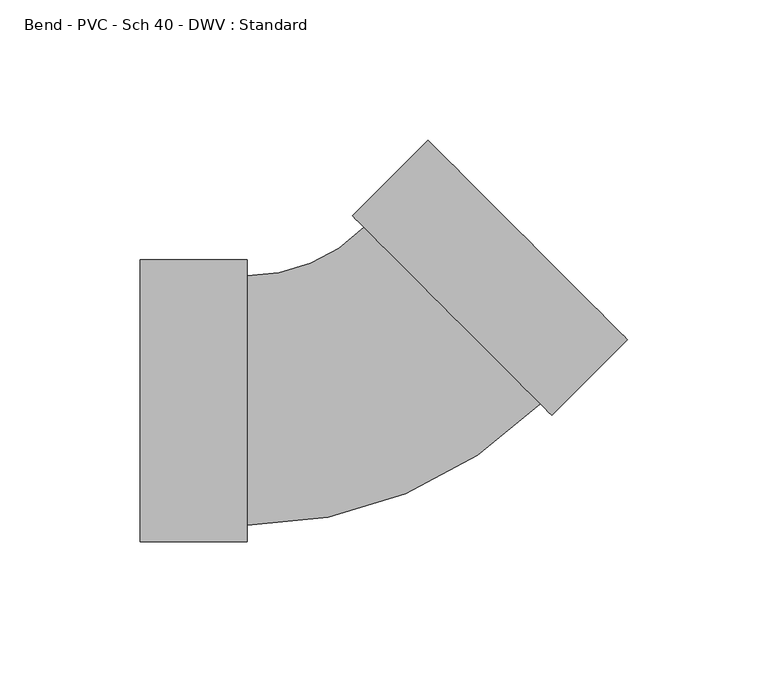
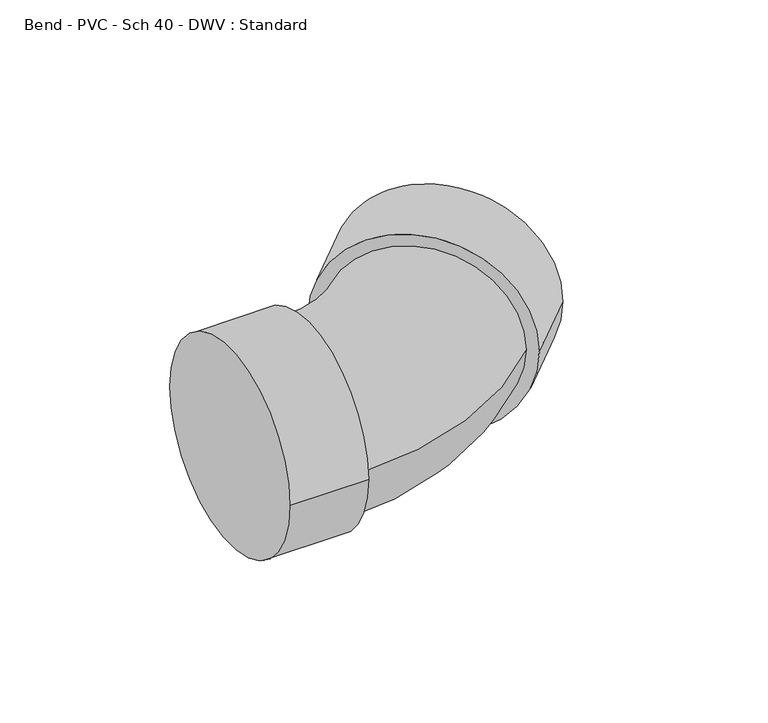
"""IFC4 building model written with IfcOpenShell, lengths in millimetres: pipe fitting geometry, Bend - PVC - Sch 40 - DWV : Standard."""

from ifc_helpers import new_model, si_unit, point, frame, origin, place, context, project, spatial, circle_curve, ellipse_curve, trimmed, source, transform, mapped, element, save
from ifc_brep_helpers import plane_surface, cylinder_surface, revolved_surface, advanced_brep


def bend_pvc_sch_40_dwv_standard_9832a8ad(model_context):
    return source(origin(), model_context, "Body", "AdvancedBrep", [
        advanced_brep(
        [(-80.9752, -50.2666, 0.0), (-80.9752, 50.2666, 0.0), (-42.8752, -50.2666, 0.0), (-42.8752, 50.2666, 0.0), (-42.8752, -44.45, 0.0), (-42.8752, 44.45, 0.0), (-1.1194069, 61.7481352, 0.0), (61.7483464, -1.1076966, 0.0), (65.8616937, -5.2202639, 0.0), (-5.2327542, 65.8607025, 0.0), (92.7999073, 21.7230589, 0.0), (21.7054595, 92.8040253, 0.0)],
        [
            (0, 1, circle_curve(frame((-80.9752, 0.0, 0.0), z_axis=(-1.0, 0.0, 0.0), x_axis=(0.0, 1.0, 0.0)), 50.2666)),
            (1, 0, circle_curve(frame((-80.9752, 0.0, 0.0), z_axis=(-1.0, 0.0, 0.0), x_axis=(0.0, 1.0, 0.0)), 50.2666)),
            (2, 3, circle_curve(frame((-42.8752, 0.0, 0.0), z_axis=(1.0, 0.0, 0.0), x_axis=(0.0, 1.0, 0.0)), 50.2666)),
            (3, 2, circle_curve(frame((-42.8752, 0.0, 0.0), z_axis=(1.0, 0.0, 0.0), x_axis=(0.0, 1.0, 0.0)), 50.2666)),
            (4, 5, circle_curve(frame((-42.8752, 0.0, 0.0), z_axis=(-1.0, 0.0, 0.0), x_axis=(0.0, 1.0, 0.0)), 44.45)),
            (5, 4, circle_curve(frame((-42.8752, 0.0, 0.0), z_axis=(-1.0, 0.0, 0.0), x_axis=(0.0, 1.0, 0.0)), 44.45)),
            (0, 2),
            (3, 1),
            (6, 5, circle_curve(frame((-42.8752, 103.4960103, 0.0), z_axis=(0.0, 0.0, -1.0), x_axis=(0.0, -1.0, 0.0)), 59.0460103)),
            (4, 7, circle_curve(frame((-42.8752, 103.4960103, 0.0), z_axis=(0.0, 0.0, 1.0), x_axis=(0.0, -1.0, 0.0)), 147.9460103)),
            (7, 6, circle_curve(frame((30.3144698, 30.3202193, 0.0), z_axis=(-0.7070397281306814, -0.7071738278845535, 0.0), x_axis=(-0.7071738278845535, 0.7070397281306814, 0.0)), 44.45)),
            (6, 7, circle_curve(frame((30.3144698, 30.3202193, 0.0), z_axis=(-0.7070397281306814, -0.7071738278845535, 0.0), x_axis=(-0.7071738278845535, 0.7070397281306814, 0.0)), 44.45)),
            (8, 9, circle_curve(frame((30.3144698, 30.3202193, 0.0), z_axis=(-0.7070397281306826, -0.7071738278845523, 0.0), x_axis=(-0.7071738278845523, 0.7070397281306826, 0.0)), 50.2666)),
            (9, 8, circle_curve(frame((30.3144698, 30.3202193, 0.0), z_axis=(-0.7070397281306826, -0.7071738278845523, 0.0), x_axis=(-0.7071738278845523, 0.7070397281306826, 0.0)), 50.2666)),
            (10, 11, circle_curve(frame((57.2526834, 57.2635421, 0.0), z_axis=(0.7070397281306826, 0.7071738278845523, 0.0), x_axis=(-0.7071738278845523, 0.7070397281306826, 0.0)), 50.2666)),
            (11, 10, circle_curve(frame((57.2526834, 57.2635421, 0.0), z_axis=(0.7070397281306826, 0.7071738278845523, 0.0), x_axis=(-0.7071738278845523, 0.7070397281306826, 0.0)), 50.2666)),
            (8, 10),
            (11, 9),
        ],
        [
            plane_surface(frame((-80.9752, 0.0, 0.0), z_axis=(-1.0, 0.0, 0.0), x_axis=(0.0, 0.0, 1.0))),
            plane_surface(frame((-42.8752, 0.0, 0.0), z_axis=(1.0, 0.0, 0.0), x_axis=(0.0, 0.0, 1.0))),
            cylinder_surface(frame((-80.9752, 0.0, 0.0), z_axis=(-1.0, 0.0, 0.0), x_axis=(0.0, 1.0, 0.0)), 50.2666),
            revolved_surface(trimmed(ellipse_curve(frame((-42.8752, 0.0, 0.0), z_axis=(-1.0, 0.0, 0.0), x_axis=(0.0, 1.0, 0.0)), 44.45, 44.45), [point((-42.8752, -44.45, 0.0))], [point((-42.8752, 44.45, 0.0))], True, "CARTESIAN"), (-42.8752, 103.4960103, 0.0), (0.0, 0.0, 1.0)),
            revolved_surface(trimmed(ellipse_curve(frame((-42.8752, 0.0, 0.0), z_axis=(-1.0, 0.0, 0.0), x_axis=(0.0, 1.0, 0.0)), 44.45, 44.45), [point((-42.8752, 44.45, 0.0))], [point((-42.8752, -44.45, 0.0))], True, "CARTESIAN"), (-42.8752, 103.4960103, 0.0), (0.0, 0.0, 1.0)),
            plane_surface(frame((30.3144698, 30.3202193, 0.0), z_axis=(-0.7070397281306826, -0.7071738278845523, 0.0), x_axis=(0.0, 0.0, 1.0))),
            plane_surface(frame((57.2526834, 57.2635421, 0.0), z_axis=(0.7070397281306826, 0.7071738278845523, 0.0), x_axis=(0.0, 0.0, 1.0))),
            cylinder_surface(frame((30.3144698, 30.3202193, 0.0), z_axis=(-0.7070397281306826, -0.7071738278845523, 0.0), x_axis=(-0.7071738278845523, 0.7070397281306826, 0.0)), 50.2666),
        ],
        [
            (0, [[1, 2]]),
            (1, [[3, 4], [5, 6]]),
            (2, [[-1, 7, -4, 8]]),
            (2, [[-2, -8, -3, -7]]),
            (3, [[9, -5, 10, 11]]),
            (4, [[-9, 12, -10, -6]]),
            (5, [[13, 14], [-11, -12]]),
            (6, [[15, 16]]),
            (7, [[-13, 17, -16, 18]]),
            (7, [[-14, -18, -15, -17]]),
        ],
    ),
    ])


if __name__ == "__main__":
    model = new_model("IFC4")
    model_context = context("Model", 3, world=origin())
    ifc_project = project(units=[si_unit("LENGTHUNIT", "METRE", prefix="MILLI")], contexts=[model_context])
    site = spatial("IfcSite", under=ifc_project)
    building = spatial("IfcBuilding", under=site)
    placement = place(None, origin())
    bend_pvc_sch_40_dwv_standard_shape = bend_pvc_sch_40_dwv_standard_9832a8ad(model_context)
    element("IfcPipeFitting", 1, ObjectType="Bend - PVC - Sch 40 - DWV : Standard", at=placement, inside=building, context=model_context, shape_type="MappedRepresentation", body=[
        mapped(bend_pvc_sch_40_dwv_standard_shape, transform((0.0, 0.0, 0.0), x_axis=(1.0, 0.0, 0.0), y_axis=(0.0, 1.0, 0.0), z_axis=(0.0, 0.0, 1.0))),
    ])
    save(model, "model.ifc")
